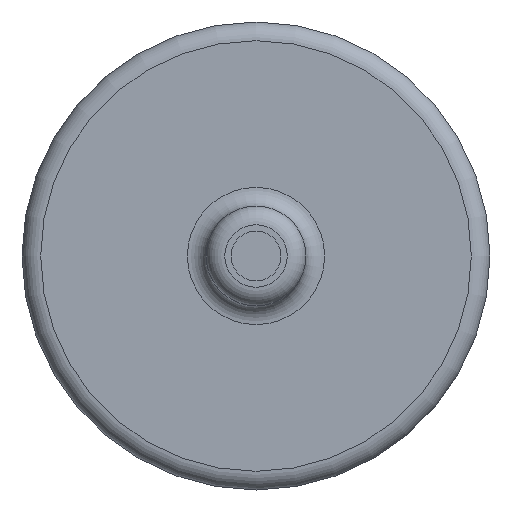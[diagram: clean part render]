
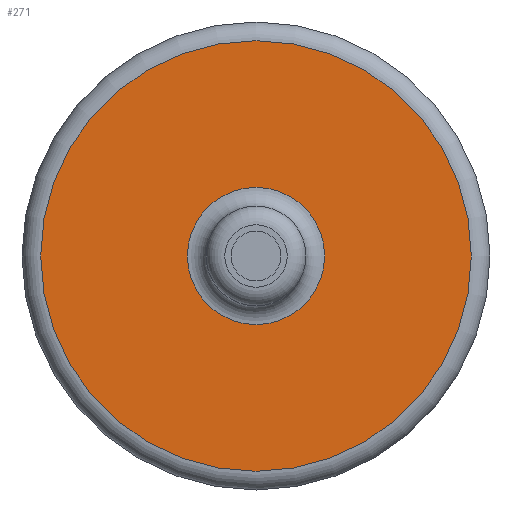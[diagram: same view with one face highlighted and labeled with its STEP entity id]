
A CAD part, left-side view. The second image highlights one B-rep face of the part: STEP entity #271.
In plain terms, the highlighted planar face has unit normal (-1, 0, 0).
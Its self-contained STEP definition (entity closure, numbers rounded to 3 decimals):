
#209=CARTESIAN_POINT('',(28.,0.0,3.45));
#210=VERTEX_POINT('',#209);
#211=CARTESIAN_POINT('',(28.,0.0,0.));
#212=DIRECTION('',(1.0,0.0,0.0));
#213=DIRECTION('',(0.0,0.0,-1.0));
#214=AXIS2_PLACEMENT_3D('',#211,#212,#213);
#215=CIRCLE('',#214,3.45);
#216=EDGE_CURVE('',#210,#210,#215,.T.);
#252=CARTESIAN_POINT('',(28.,0.0,2.275));
#253=DIRECTION('',(1.0,0.0,0.0));
#254=DIRECTION('',(0.0,0.0,-1.0));
#255=AXIS2_PLACEMENT_3D('',#252,#253,#254);
#256=PLANE('',#255);
#257=ORIENTED_EDGE('',*,*,#216,.F.);
#258=EDGE_LOOP('',(#257));
#259=FACE_OUTER_BOUND('',#258,.T.);
#260=CARTESIAN_POINT('',(28.,0.,1.1));
#261=VERTEX_POINT('',#260);
#262=CARTESIAN_POINT('',(28.,0.0,0.0));
#263=DIRECTION('',(-1.0,0.0,0.0));
#264=DIRECTION('',(0.0,0.0,-1.0));
#265=AXIS2_PLACEMENT_3D('',#262,#263,#264);
#266=CIRCLE('',#265,1.1);
#267=EDGE_CURVE('',#261,#261,#266,.T.);
#268=ORIENTED_EDGE('',*,*,#267,.F.);
#269=EDGE_LOOP('',(#268));
#270=FACE_BOUND('',#269,.T.);
#271=ADVANCED_FACE('',(#259,#270),#256,.F.);
